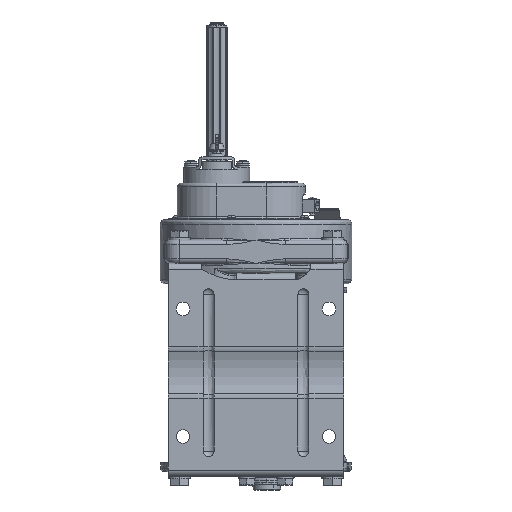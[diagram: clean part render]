
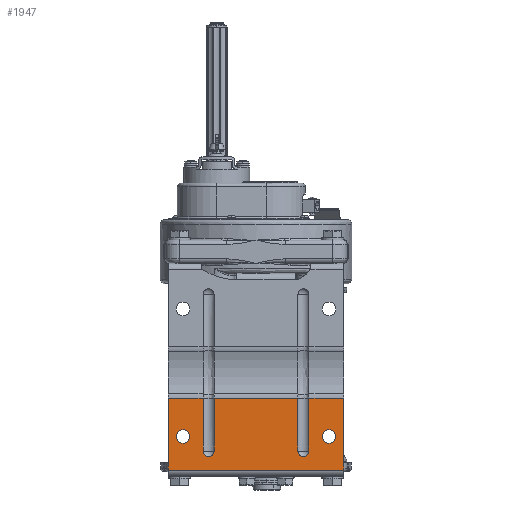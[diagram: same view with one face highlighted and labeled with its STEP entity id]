
A CAD part, front view. The second image highlights one B-rep face of the part: STEP entity #1947.
In plain terms, the highlighted planar face has unit normal (0, -1, 0).
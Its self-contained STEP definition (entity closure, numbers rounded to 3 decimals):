
#1947=ADVANCED_FACE('',(#21253,#21254,#21255),#21252,.T.);
#21252=PLANE('',#42803);
#21253=FACE_OUTER_BOUND('',#42804,.T.);
#21254=FACE_BOUND('',#42805,.T.);
#21255=FACE_BOUND('',#42806,.T.);
#42800=CARTESIAN_POINT('',(11.,-36.383,-259.95));
#42801=DIRECTION('',(0.,-1.,0.));
#42802=DIRECTION('',(0.,0.,1.));
#42803=AXIS2_PLACEMENT_3D('',#42800,#42801,#42802);
#42804=EDGE_LOOP('',(#59710,#59711,#59712,#59713,#59714,#59715,#59716,#59717,#59718,#59719,#59720,#59721));
#42805=EDGE_LOOP('',(#59722,#59723));
#42806=EDGE_LOOP('',(#59724,#59725));
#59710=ORIENTED_EDGE('',*,*,#68973,.F.);
#59711=ORIENTED_EDGE('',*,*,#68957,.F.);
#59712=ORIENTED_EDGE('',*,*,#68968,.T.);
#59713=ORIENTED_EDGE('',*,*,#68614,.T.);
#59714=ORIENTED_EDGE('',*,*,#68976,.F.);
#59715=ORIENTED_EDGE('',*,*,#68951,.T.);
#59716=ORIENTED_EDGE('',*,*,#68977,.T.);
#59717=ORIENTED_EDGE('',*,*,#68566,.T.);
#59718=ORIENTED_EDGE('',*,*,#68967,.F.);
#59719=ORIENTED_EDGE('',*,*,#68954,.F.);
#59720=ORIENTED_EDGE('',*,*,#68966,.T.);
#59721=ORIENTED_EDGE('',*,*,#68627,.T.);
#59722=ORIENTED_EDGE('',*,*,#68978,.F.);
#59723=ORIENTED_EDGE('',*,*,#68979,.F.);
#59724=ORIENTED_EDGE('',*,*,#68980,.F.);
#59725=ORIENTED_EDGE('',*,*,#68981,.F.);
#68566=EDGE_CURVE('',#102695,#102710,#102717,.T.);
#68614=EDGE_CURVE('',#103033,#102799,#103034,.T.);
#68627=EDGE_CURVE('',#102852,#103112,#103119,.T.);
#68951=EDGE_CURVE('',#105267,#105259,#105268,.T.);
#68954=EDGE_CURVE('',#105280,#105288,#105289,.T.);
#68957=EDGE_CURVE('',#105307,#105308,#105309,.T.);
#68966=EDGE_CURVE('',#105280,#102852,#105365,.T.);
#68967=EDGE_CURVE('',#105288,#102710,#105371,.T.);
#68968=EDGE_CURVE('',#105307,#103033,#105377,.T.);
#68973=EDGE_CURVE('',#105308,#103112,#105407,.T.);
#68976=EDGE_CURVE('',#105267,#102799,#105425,.T.);
#68977=EDGE_CURVE('',#105259,#102695,#105431,.T.);
#68978=EDGE_CURVE('',#105437,#105438,#105439,.T.);
#68979=EDGE_CURVE('',#105438,#105437,#105445,.T.);
#68980=EDGE_CURVE('',#105451,#105452,#105453,.T.);
#68981=EDGE_CURVE('',#105452,#105451,#105459,.T.);
#102695=VERTEX_POINT('',#136324);
#102710=VERTEX_POINT('',#136334);
#102717=LINE('',#136339,#136340);
#102799=VERTEX_POINT('',#136395);
#102852=VERTEX_POINT('',#136432);
#103033=VERTEX_POINT('',#136548);
#103034=LINE('',#136549,#136550);
#103112=VERTEX_POINT('',#136596);
#103119=LINE('',#136601,#136602);
#105259=VERTEX_POINT('',#138304);
#105267=VERTEX_POINT('',#138310);
#105268=CIRCLE('',#138314,6.);
#105280=VERTEX_POINT('',#138319);
#105288=VERTEX_POINT('',#138325);
#105289=CIRCLE('',#138329,6.);
#105307=VERTEX_POINT('',#138337);
#105308=VERTEX_POINT('',#138338);
#105309=LINE('',#138339,#138340);
#105365=LINE('',#138372,#138373);
#105371=LINE('',#138375,#138376);
#105377=LINE('',#138378,#138379);
#105407=LINE('',#138393,#138394);
#105425=LINE('',#138402,#138403);
#105431=LINE('',#138405,#138406);
#105437=VERTEX_POINT('',#138408);
#105438=VERTEX_POINT('',#138409);
#105439=CIRCLE('',#138413,7.5);
#105445=CIRCLE('',#138417,7.5);
#105451=VERTEX_POINT('',#138418);
#105452=VERTEX_POINT('',#138419);
#105453=CIRCLE('',#138423,7.5);
#105459=CIRCLE('',#138427,7.5);
#136324=CARTESIAN_POINT('',(-49.,-36.383,-173.596));
#136334=CARTESIAN_POINT('',(-141.,-36.383,-173.596));
#136339=CARTESIAN_POINT('',(-49.,-36.383,-173.596));
#136340=VECTOR('',#136341,92.);
#136341=DIRECTION('',(-1.,0.,0.));
#136395=CARTESIAN_POINT('',(-37.,-36.383,-173.596));
#136432=CARTESIAN_POINT('',(-153.,-36.383,-173.596));
#136548=CARTESIAN_POINT('',(1.,-36.383,-173.596));
#136549=CARTESIAN_POINT('',(1.,-36.383,-173.596));
#136550=VECTOR('',#136551,38.);
#136551=DIRECTION('',(-1.,0.,0.));
#136596=CARTESIAN_POINT('',(-191.,-36.383,-173.596));
#136601=CARTESIAN_POINT('',(-153.,-36.383,-173.596));
#136602=VECTOR('',#136603,38.);
#136603=DIRECTION('',(-1.,0.,0.));
#138304=CARTESIAN_POINT('',(-49.,-36.383,-231.302));
#138310=CARTESIAN_POINT('',(-37.,-36.383,-231.302));
#138311=CARTESIAN_POINT('',(-43.,-36.383,-231.302));
#138312=DIRECTION('',(0.,1.,0.));
#138313=DIRECTION('',(1.,0.,0.));
#138314=AXIS2_PLACEMENT_3D('',#138311,#138312,#138313);
#138319=CARTESIAN_POINT('',(-153.,-36.383,-231.302));
#138325=CARTESIAN_POINT('',(-141.,-36.383,-231.302));
#138326=CARTESIAN_POINT('',(-147.,-36.383,-231.302));
#138327=DIRECTION('',(0.,-1.,0.));
#138328=DIRECTION('',(1.,0.,0.));
#138329=AXIS2_PLACEMENT_3D('',#138326,#138327,#138328);
#138337=CARTESIAN_POINT('',(1.,-36.383,-252.1));
#138338=CARTESIAN_POINT('',(-191.,-36.383,-252.1));
#138339=CARTESIAN_POINT('',(1.,-36.383,-252.1));
#138340=VECTOR('',#138341,192.);
#138341=DIRECTION('',(-1.,0.,0.));
#138372=CARTESIAN_POINT('',(-153.,-36.383,-231.302));
#138373=VECTOR('',#138374,57.706);
#138374=DIRECTION('',(0.,0.,1.));
#138375=CARTESIAN_POINT('',(-141.,-36.383,-231.302));
#138376=VECTOR('',#138377,57.706);
#138377=DIRECTION('',(0.,0.,1.));
#138378=CARTESIAN_POINT('',(1.,-36.383,-252.1));
#138379=VECTOR('',#138380,78.504);
#138380=DIRECTION('',(0.,0.,1.));
#138393=CARTESIAN_POINT('',(-191.,-36.383,-252.1));
#138394=VECTOR('',#138395,78.504);
#138395=DIRECTION('',(0.,0.,1.));
#138402=CARTESIAN_POINT('',(-37.,-36.383,-231.302));
#138403=VECTOR('',#138404,57.706);
#138404=DIRECTION('',(0.,0.,1.));
#138405=CARTESIAN_POINT('',(-49.,-36.383,-231.302));
#138406=VECTOR('',#138407,57.706);
#138407=DIRECTION('',(0.,0.,1.));
#138408=CARTESIAN_POINT('',(-15.,-36.383,-222.9));
#138409=CARTESIAN_POINT('',(-15.,-36.383,-207.9));
#138410=CARTESIAN_POINT('',(-15.,-36.383,-215.4));
#138411=DIRECTION('',(0.,-1.,0.));
#138412=DIRECTION('',(0.,0.,1.));
#138413=AXIS2_PLACEMENT_3D('',#138410,#138411,#138412);
#138414=CARTESIAN_POINT('',(-15.,-36.383,-215.4));
#138415=DIRECTION('',(0.,-1.,0.));
#138416=DIRECTION('',(0.,0.,1.));
#138417=AXIS2_PLACEMENT_3D('',#138414,#138415,#138416);
#138418=CARTESIAN_POINT('',(-175.,-36.383,-222.9));
#138419=CARTESIAN_POINT('',(-175.,-36.383,-207.9));
#138420=CARTESIAN_POINT('',(-175.,-36.383,-215.4));
#138421=DIRECTION('',(0.,-1.,0.));
#138422=DIRECTION('',(0.,0.,1.));
#138423=AXIS2_PLACEMENT_3D('',#138420,#138421,#138422);
#138424=CARTESIAN_POINT('',(-175.,-36.383,-215.4));
#138425=DIRECTION('',(0.,-1.,0.));
#138426=DIRECTION('',(0.,0.,1.));
#138427=AXIS2_PLACEMENT_3D('',#138424,#138425,#138426);
